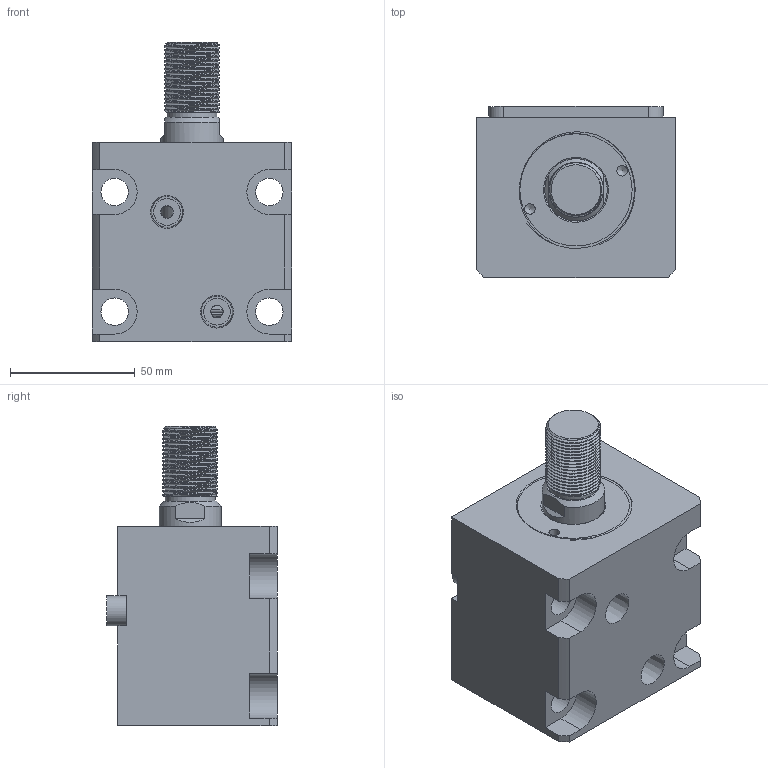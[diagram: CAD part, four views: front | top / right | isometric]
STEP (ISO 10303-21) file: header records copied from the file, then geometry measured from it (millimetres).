
FILE_DESCRIPTION(/* description */ (''),/* implementation_level */ '2;1');
FILE_NAME(/* name */ 'CHTB-la40x25w.stp',/* time_stamp */ '2022-04-29T17:25:13+08:00',/* author */ (''),/* organization */ (''),/* preprocessor_version */ 'ST-DEVELOPER v16.7',/* originating_system */ 'SIEMENS PLM Software NX 12.0',/* authorisation */ '');
FILE_SCHEMA (('AUTOMOTIVE_DESIGN { 1 0 10303 214 3 1 1 1 }'));
Length unit declared in the file: millimetre
Products named in the file (1): CHTB-la40x25w
Bounding box: 80 x 68.5 x 120 mm (x, y, z)
Volume: 369296.8 mm3; surface area: 79100.6 mm2
Topology: 4 solids, 5 shells, 459 faces, 1311 edges, 900 vertices
Faces by surface type: plane 306, extrusion 88, cylinder 40, torus 10, bspline 8, cone 7
Full cylindrical faces by diameter (mm): 4.2 x2, 5 x3, 10.7 x2, 11 x4, 20 x1, 25 x2, 29 x1, 34 x2, 40 x4, 45 x1
Entity records: 22929 total; most frequent: CARTESIAN_POINT 9225, ORIENTED_EDGE 2514, DIRECTION 1871, EDGE_CURVE 1257, VECTOR 955, VERTEX_POINT 887, LINE 867, EDGE_LOOP 550
